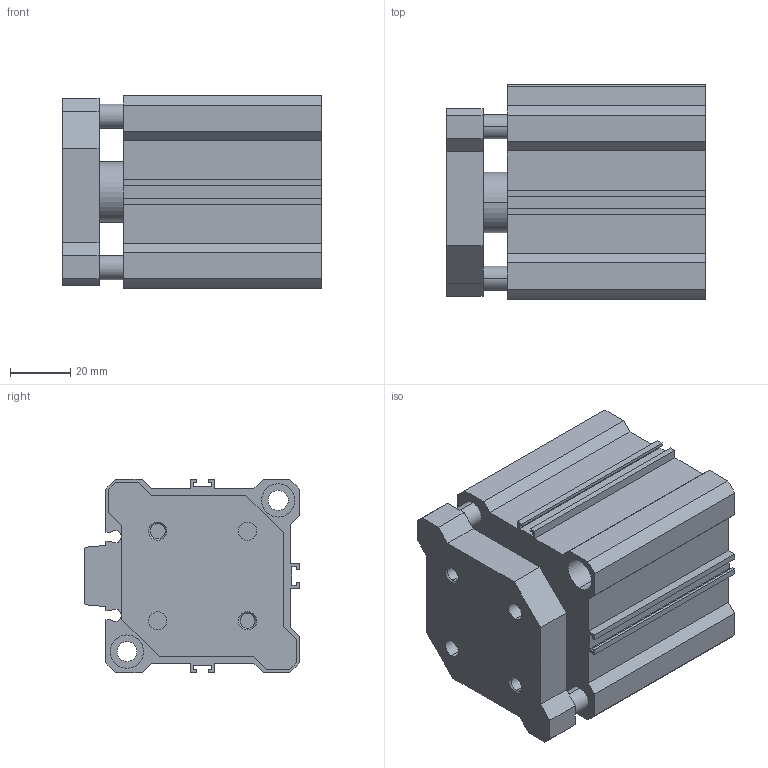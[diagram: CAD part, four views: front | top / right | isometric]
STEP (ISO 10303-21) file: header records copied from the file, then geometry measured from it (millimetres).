
FILE_DESCRIPTION (( 'STEP AP203' ), '1' );
FILE_NAME ('CCMG50-25.STEP', '2020-04-01T18:47:19', ( '' ), ( '' ), 'SwSTEP 2.0', 'SolidWorks 2019', '' );
FILE_SCHEMA (( 'CONFIG_CONTROL_DESIGN' ));
Length unit declared in the file: millimetre
Products named in the file (1): CCMG50-25
Bounding box: 85.5 x 71 x 64 mm (x, y, z)
Volume: 241431.6 mm3; surface area: 64162.1 mm2
Topology: 2 solids, 2 shells, 162 faces, 422 edges, 274 vertices
Faces by surface type: plane 92, cylinder 54, cone 16
Entity records: 5029 total; most frequent: DIRECTION 864, CARTESIAN_POINT 855, ORIENTED_EDGE 836, EDGE_CURVE 418, VECTOR 298, LINE 298, AXIS2_PLACEMENT_3D 283, VERTEX_POINT 274
